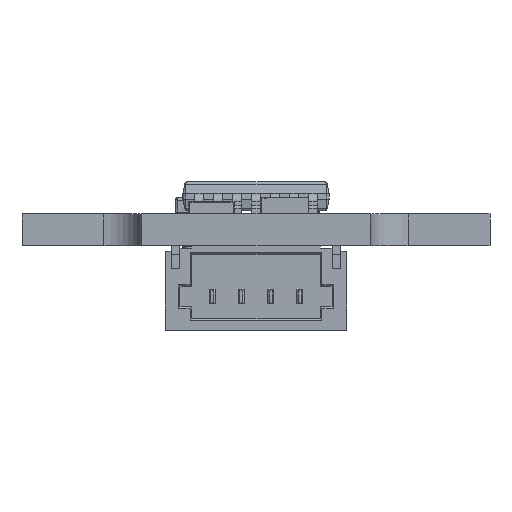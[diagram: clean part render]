
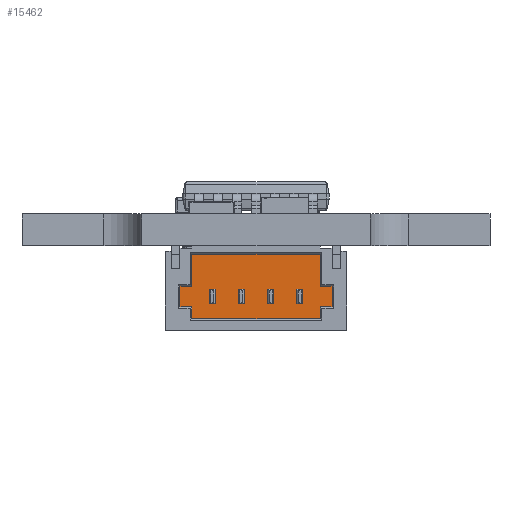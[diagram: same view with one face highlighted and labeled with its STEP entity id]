
A CAD part, left-side view. The second image highlights one B-rep face of the part: STEP entity #15462.
In plain terms, the highlighted planar face has unit normal (-1, 0, 0) as drawn and (0, -1, 0) by its records, which use the part's own axes.
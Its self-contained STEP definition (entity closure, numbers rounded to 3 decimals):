
#528=FACE_BOUND('',#2707,.T.);
#529=FACE_BOUND('',#2708,.T.);
#530=FACE_BOUND('',#2709,.T.);
#531=FACE_BOUND('',#2710,.T.);
#1002=PLANE('',#16744);
#1800=FACE_OUTER_BOUND('',#2706,.T.);
#2706=EDGE_LOOP('',(#13560,#13561,#13562,#13563,#13564,#13565,#13566,#13567,
#13568,#13569,#13570,#13571));
#2707=EDGE_LOOP('',(#13572,#13573,#13574,#13575));
#2708=EDGE_LOOP('',(#13576,#13577,#13578,#13579));
#2709=EDGE_LOOP('',(#13580,#13581,#13582,#13583));
#2710=EDGE_LOOP('',(#13584,#13585,#13586,#13587));
#4257=LINE('',#25818,#5959);
#4260=LINE('',#25823,#5962);
#4262=LINE('',#25827,#5964);
#4264=LINE('',#25830,#5966);
#4265=LINE('',#25834,#5967);
#4268=LINE('',#25839,#5970);
#4270=LINE('',#25843,#5972);
#4272=LINE('',#25846,#5974);
#4273=LINE('',#25850,#5975);
#4276=LINE('',#25855,#5978);
#4278=LINE('',#25859,#5980);
#4280=LINE('',#25862,#5982);
#4281=LINE('',#25866,#5983);
#4284=LINE('',#25871,#5986);
#4286=LINE('',#25875,#5988);
#4288=LINE('',#25878,#5990);
#4291=LINE('',#25885,#5993);
#4294=LINE('',#25891,#5996);
#4299=LINE('',#25901,#6001);
#4300=LINE('',#25903,#6002);
#4301=LINE('',#25905,#6003);
#4302=LINE('',#25907,#6004);
#4303=LINE('',#25908,#6005);
#4304=LINE('',#25910,#6006);
#4305=LINE('',#25912,#6007);
#4306=LINE('',#25914,#6008);
#4307=LINE('',#25916,#6009);
#4308=LINE('',#25917,#6010);
#5959=VECTOR('',#20264,1.);
#5962=VECTOR('',#20269,1.);
#5964=VECTOR('',#20273,1.);
#5966=VECTOR('',#20277,1.);
#5967=VECTOR('',#20280,1.);
#5970=VECTOR('',#20285,1.);
#5972=VECTOR('',#20289,1.);
#5974=VECTOR('',#20293,1.);
#5975=VECTOR('',#20296,1.);
#5978=VECTOR('',#20301,1.);
#5980=VECTOR('',#20305,1.);
#5982=VECTOR('',#20309,1.);
#5983=VECTOR('',#20312,1.);
#5986=VECTOR('',#20317,1.);
#5988=VECTOR('',#20321,1.);
#5990=VECTOR('',#20325,1.);
#5993=VECTOR('',#20332,1.);
#5996=VECTOR('',#20337,1.);
#6001=VECTOR('',#20350,1.);
#6002=VECTOR('',#20351,1.);
#6003=VECTOR('',#20352,1.);
#6004=VECTOR('',#20353,1.);
#6005=VECTOR('',#20354,1.);
#6006=VECTOR('',#20355,1.);
#6007=VECTOR('',#20356,1.);
#6008=VECTOR('',#20357,1.);
#6009=VECTOR('',#20358,1.);
#6010=VECTOR('',#20359,1.);
#7793=VERTEX_POINT('',#25816);
#7794=VERTEX_POINT('',#25817);
#7795=VERTEX_POINT('',#25822);
#7796=VERTEX_POINT('',#25826);
#7797=VERTEX_POINT('',#25832);
#7798=VERTEX_POINT('',#25833);
#7799=VERTEX_POINT('',#25838);
#7800=VERTEX_POINT('',#25842);
#7801=VERTEX_POINT('',#25848);
#7802=VERTEX_POINT('',#25849);
#7803=VERTEX_POINT('',#25854);
#7804=VERTEX_POINT('',#25858);
#7805=VERTEX_POINT('',#25864);
#7806=VERTEX_POINT('',#25865);
#7807=VERTEX_POINT('',#25870);
#7808=VERTEX_POINT('',#25874);
#7809=VERTEX_POINT('',#25882);
#7810=VERTEX_POINT('',#25884);
#7811=VERTEX_POINT('',#25888);
#7812=VERTEX_POINT('',#25890);
#7813=VERTEX_POINT('',#25900);
#7814=VERTEX_POINT('',#25902);
#7815=VERTEX_POINT('',#25904);
#7816=VERTEX_POINT('',#25906);
#7817=VERTEX_POINT('',#25909);
#7818=VERTEX_POINT('',#25911);
#7819=VERTEX_POINT('',#25913);
#7820=VERTEX_POINT('',#25915);
#9742=EDGE_CURVE('',#7793,#7794,#4257,.T.);
#9745=EDGE_CURVE('',#7794,#7795,#4260,.T.);
#9747=EDGE_CURVE('',#7795,#7796,#4262,.T.);
#9749=EDGE_CURVE('',#7796,#7793,#4264,.T.);
#9750=EDGE_CURVE('',#7797,#7798,#4265,.T.);
#9753=EDGE_CURVE('',#7798,#7799,#4268,.T.);
#9755=EDGE_CURVE('',#7799,#7800,#4270,.T.);
#9757=EDGE_CURVE('',#7800,#7797,#4272,.T.);
#9758=EDGE_CURVE('',#7801,#7802,#4273,.T.);
#9761=EDGE_CURVE('',#7802,#7803,#4276,.T.);
#9763=EDGE_CURVE('',#7803,#7804,#4278,.T.);
#9765=EDGE_CURVE('',#7804,#7801,#4280,.T.);
#9766=EDGE_CURVE('',#7805,#7806,#4281,.T.);
#9769=EDGE_CURVE('',#7806,#7807,#4284,.T.);
#9771=EDGE_CURVE('',#7807,#7808,#4286,.T.);
#9773=EDGE_CURVE('',#7808,#7805,#4288,.T.);
#9776=EDGE_CURVE('',#7809,#7810,#4291,.T.);
#9779=EDGE_CURVE('',#7811,#7812,#4294,.T.);
#9784=EDGE_CURVE('',#7809,#7813,#4299,.T.);
#9785=EDGE_CURVE('',#7814,#7813,#4300,.T.);
#9786=EDGE_CURVE('',#7815,#7814,#4301,.T.);
#9787=EDGE_CURVE('',#7816,#7815,#4302,.T.);
#9788=EDGE_CURVE('',#7816,#7812,#4303,.T.);
#9789=EDGE_CURVE('',#7811,#7817,#4304,.T.);
#9790=EDGE_CURVE('',#7818,#7817,#4305,.T.);
#9791=EDGE_CURVE('',#7819,#7818,#4306,.T.);
#9792=EDGE_CURVE('',#7820,#7819,#4307,.T.);
#9793=EDGE_CURVE('',#7820,#7810,#4308,.T.);
#13560=ORIENTED_EDGE('',*,*,#9776,.F.);
#13561=ORIENTED_EDGE('',*,*,#9784,.T.);
#13562=ORIENTED_EDGE('',*,*,#9785,.F.);
#13563=ORIENTED_EDGE('',*,*,#9786,.F.);
#13564=ORIENTED_EDGE('',*,*,#9787,.F.);
#13565=ORIENTED_EDGE('',*,*,#9788,.T.);
#13566=ORIENTED_EDGE('',*,*,#9779,.F.);
#13567=ORIENTED_EDGE('',*,*,#9789,.T.);
#13568=ORIENTED_EDGE('',*,*,#9790,.F.);
#13569=ORIENTED_EDGE('',*,*,#9791,.F.);
#13570=ORIENTED_EDGE('',*,*,#9792,.F.);
#13571=ORIENTED_EDGE('',*,*,#9793,.T.);
#13572=ORIENTED_EDGE('',*,*,#9747,.F.);
#13573=ORIENTED_EDGE('',*,*,#9745,.F.);
#13574=ORIENTED_EDGE('',*,*,#9742,.F.);
#13575=ORIENTED_EDGE('',*,*,#9749,.F.);
#13576=ORIENTED_EDGE('',*,*,#9755,.F.);
#13577=ORIENTED_EDGE('',*,*,#9753,.F.);
#13578=ORIENTED_EDGE('',*,*,#9750,.F.);
#13579=ORIENTED_EDGE('',*,*,#9757,.F.);
#13580=ORIENTED_EDGE('',*,*,#9763,.F.);
#13581=ORIENTED_EDGE('',*,*,#9761,.F.);
#13582=ORIENTED_EDGE('',*,*,#9758,.F.);
#13583=ORIENTED_EDGE('',*,*,#9765,.F.);
#13584=ORIENTED_EDGE('',*,*,#9771,.F.);
#13585=ORIENTED_EDGE('',*,*,#9769,.F.);
#13586=ORIENTED_EDGE('',*,*,#9766,.F.);
#13587=ORIENTED_EDGE('',*,*,#9773,.F.);
#15462=ADVANCED_FACE('',(#1800,#528,#529,#530,#531),#1002,.T.);
#16744=AXIS2_PLACEMENT_3D('',#25899,#20348,#20349);
#20264=DIRECTION('',(-1.,0.,0.));
#20269=DIRECTION('',(0.,0.,-1.));
#20273=DIRECTION('',(1.,0.,0.));
#20277=DIRECTION('',(0.,0.,1.));
#20280=DIRECTION('',(-1.,0.,0.));
#20285=DIRECTION('',(0.,0.,-1.));
#20289=DIRECTION('',(1.,0.,0.));
#20293=DIRECTION('',(0.,0.,1.));
#20296=DIRECTION('',(-1.,0.,0.));
#20301=DIRECTION('',(0.,0.,-1.));
#20305=DIRECTION('',(1.,0.,0.));
#20309=DIRECTION('',(0.,0.,1.));
#20312=DIRECTION('',(-1.,0.,0.));
#20317=DIRECTION('',(0.,0.,-1.));
#20321=DIRECTION('',(1.,0.,0.));
#20325=DIRECTION('',(0.,0.,1.));
#20332=DIRECTION('',(1.,0.,0.));
#20337=DIRECTION('',(-1.,0.,0.));
#20348=DIRECTION('center_axis',(0.,-1.,0.));
#20349=DIRECTION('ref_axis',(0.,0.,-1.));
#20350=DIRECTION('',(0.,0.,-1.));
#20351=DIRECTION('',(1.,0.,0.));
#20352=DIRECTION('',(0.,0.,1.));
#20353=DIRECTION('',(-1.,0.,0.));
#20354=DIRECTION('',(0.,0.,-1.));
#20355=DIRECTION('',(0.,0.,1.));
#20356=DIRECTION('',(-1.,0.,0.));
#20357=DIRECTION('',(0.,0.,-1.));
#20358=DIRECTION('',(1.,0.,0.));
#20359=DIRECTION('',(0.,0.,1.));
#25816=CARTESIAN_POINT('',(1.6,0.739,2.239));
#25817=CARTESIAN_POINT('',(1.4,0.739,2.239));
#25818=CARTESIAN_POINT('',(1.4,0.739,2.239));
#25822=CARTESIAN_POINT('',(1.4,0.739,1.739));
#25823=CARTESIAN_POINT('',(1.4,0.739,1.739));
#25826=CARTESIAN_POINT('',(1.6,0.739,1.739));
#25827=CARTESIAN_POINT('',(1.6,0.739,1.739));
#25830=CARTESIAN_POINT('',(1.6,0.739,2.239));
#25832=CARTESIAN_POINT('',(-0.4,0.739,2.239));
#25833=CARTESIAN_POINT('',(-0.6,0.739,2.239));
#25834=CARTESIAN_POINT('',(-0.6,0.739,2.239));
#25838=CARTESIAN_POINT('',(-0.6,0.739,1.739));
#25839=CARTESIAN_POINT('',(-0.6,0.739,1.739));
#25842=CARTESIAN_POINT('',(-0.4,0.739,1.739));
#25843=CARTESIAN_POINT('',(-0.4,0.739,1.739));
#25846=CARTESIAN_POINT('',(-0.4,0.739,2.239));
#25848=CARTESIAN_POINT('',(-1.4,0.739,2.239));
#25849=CARTESIAN_POINT('',(-1.6,0.739,2.239));
#25850=CARTESIAN_POINT('',(-1.6,0.739,2.239));
#25854=CARTESIAN_POINT('',(-1.6,0.739,1.739));
#25855=CARTESIAN_POINT('',(-1.6,0.739,1.739));
#25858=CARTESIAN_POINT('',(-1.4,0.739,1.739));
#25859=CARTESIAN_POINT('',(-1.4,0.739,1.739));
#25862=CARTESIAN_POINT('',(-1.4,0.739,2.239));
#25864=CARTESIAN_POINT('',(0.6,0.739,2.239));
#25865=CARTESIAN_POINT('',(0.4,0.739,2.239));
#25866=CARTESIAN_POINT('',(0.4,0.739,2.239));
#25870=CARTESIAN_POINT('',(0.4,0.739,1.739));
#25871=CARTESIAN_POINT('',(0.4,0.739,1.739));
#25874=CARTESIAN_POINT('',(0.6,0.739,1.739));
#25875=CARTESIAN_POINT('',(0.6,0.739,1.739));
#25878=CARTESIAN_POINT('',(0.6,0.739,2.239));
#25882=CARTESIAN_POINT('',(-2.2,0.739,2.739));
#25884=CARTESIAN_POINT('',(2.2,0.739,2.739));
#25885=CARTESIAN_POINT('',(-2.2,0.739,2.739));
#25888=CARTESIAN_POINT('',(2.2,0.739,0.539));
#25890=CARTESIAN_POINT('',(-2.2,0.739,0.539));
#25891=CARTESIAN_POINT('',(2.2,0.739,0.539));
#25899=CARTESIAN_POINT('Origin',(0.,0.739,1.677));
#25900=CARTESIAN_POINT('',(-2.2,0.739,2.339));
#25901=CARTESIAN_POINT('',(-2.2,0.739,1.677));
#25902=CARTESIAN_POINT('',(-2.6,0.739,2.339));
#25903=CARTESIAN_POINT('',(-2.6,0.739,2.339));
#25904=CARTESIAN_POINT('',(-2.6,0.739,1.639));
#25905=CARTESIAN_POINT('',(-2.6,0.739,1.639));
#25906=CARTESIAN_POINT('',(-2.2,0.739,1.639));
#25907=CARTESIAN_POINT('',(-2.2,0.739,1.639));
#25908=CARTESIAN_POINT('',(-2.2,0.739,1.677));
#25909=CARTESIAN_POINT('',(2.2,0.739,1.639));
#25910=CARTESIAN_POINT('',(2.2,0.739,1.677));
#25911=CARTESIAN_POINT('',(2.6,0.739,1.639));
#25912=CARTESIAN_POINT('',(2.6,0.739,1.639));
#25913=CARTESIAN_POINT('',(2.6,0.739,2.339));
#25914=CARTESIAN_POINT('',(2.6,0.739,2.339));
#25915=CARTESIAN_POINT('',(2.2,0.739,2.339));
#25916=CARTESIAN_POINT('',(2.2,0.739,2.339));
#25917=CARTESIAN_POINT('',(2.2,0.739,1.677));
